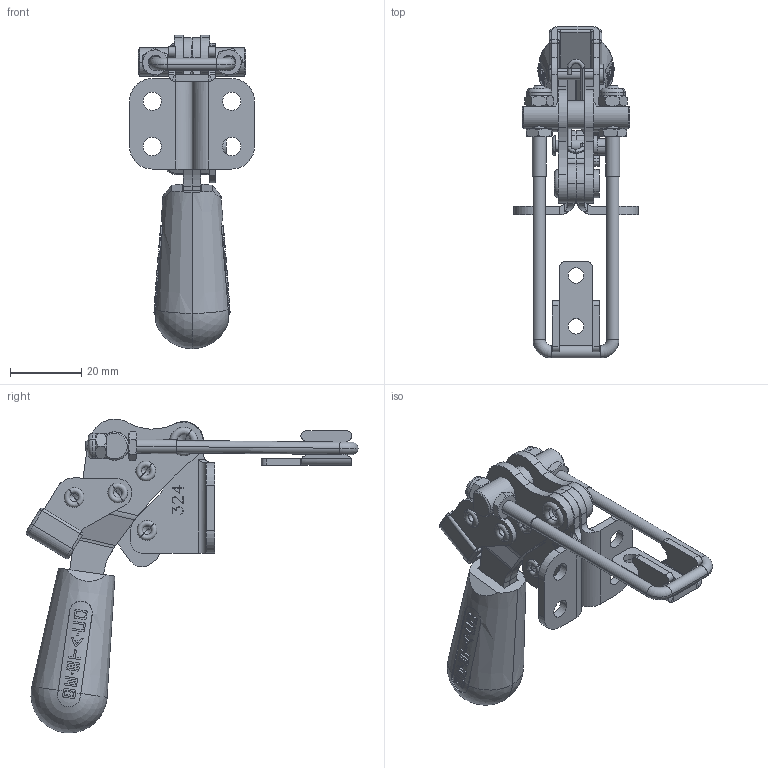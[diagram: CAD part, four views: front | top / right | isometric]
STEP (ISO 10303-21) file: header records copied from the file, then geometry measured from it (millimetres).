
FILE_DESCRIPTION((''),'2;1');
FILE_NAME('001_DESTACO_324_ASM','2024-06-17T',('SYSTEM'),(''),'PRO/ENGINEER BY PARAMETRIC TECHNOLOGY CORPORATION, 2016360','PRO/ENGINEER BY PARAMETRIC TECHNOLOGY CORPORATION, 2016360','');
FILE_SCHEMA(('AUTOMOTIVE_DESIGN { 1 0 10303 214 1 1 1 1 }'));
Length unit declared in the file: millimetre
Products named in the file (31): 324ROLLED_RIVET_MODEL_X__394; 324324107; 324324106; 324205_324205; ROLLED_RIVET_MODEL__125_X__426_; 324-R-BODY_ASM; ROLLED_RIVET_MODEL__125_X__526_; 324102-M; 324103-M; ERGONOMIC_GRIP_602301; A324_A324_ASM; 324SPLIT_LINE1; 324SWEEP2; 324SWEEP3; 324ROLLED_RIVET_25_X__526_; 324324204_INSTALLED_ASM; 324EXTRUDE7; 324FILLET1; 324324203_DIPPED_ASM; 324-R-LOCK_ASM; 324-R-HAND_ASM; 324HEX_JAM_NUT_M4; 324U_HOOK_324104; 324324105; 324NYLON_INSERT; 324CUT-EXTRUDE1; 324NYLON_INSERT_LOCK_NUT_324908_ASM; 324-R-CLAMP_ASM; R_324324101_324101; 324-FIX-1_ASM; 001_DESTACO_324_ASM
Assembly tree (33 placements, depth 5):
  001_DESTACO_324_ASM
    324-R-BODY_ASM
      324ROLLED_RIVET_MODEL_X__394
      324324107
      324324106
      324205_324205
      ROLLED_RIVET_MODEL__125_X__426_
    324-R-HAND_ASM
      ROLLED_RIVET_MODEL__125_X__426_
      ROLLED_RIVET_MODEL__125_X__526_
      A324_A324_ASM
        324102-M
        324103-M
        ERGONOMIC_GRIP_602301
      324-R-LOCK_ASM
        324324204_INSTALLED_ASM
          324SPLIT_LINE1
          324SWEEP2
          324SWEEP3
          324ROLLED_RIVET_25_X__526_
        324324203_DIPPED_ASM
          324EXTRUDE7
          324FILLET1
    324-R-CLAMP_ASM
      324HEX_JAM_NUT_M4  x2
      324U_HOOK_324104
      324324105
      324NYLON_INSERT_LOCK_NUT_324908_ASM  x2
        324NYLON_INSERT
        324CUT-EXTRUDE1
    324-FIX-1_ASM
      R_324324101_324101
Bounding box: 35.05 x 93.21 x 88.11 mm (x, y, z)
Volume: 27366.3 mm3; surface area: 24786.4 mm2
Topology: 25 solids, 25 shells, 1200 faces, 3090 edges, 1981 vertices
Faces by surface type: plane 681, cylinder 295, cone 111, torus 58, extrusion 27, sphere 20, bspline 8
Entity records: 54329 total; most frequent: CARTESIAN_POINT 16095, ORIENTED_EDGE 5772, DIRECTION 5622, PRESENTATION_STYLE_ASSIGNMENT 2959, STYLED_ITEM 2959, CURVE_STYLE 2886, EDGE_CURVE 2886, AXIS2_PLACEMENT_3D 1957
